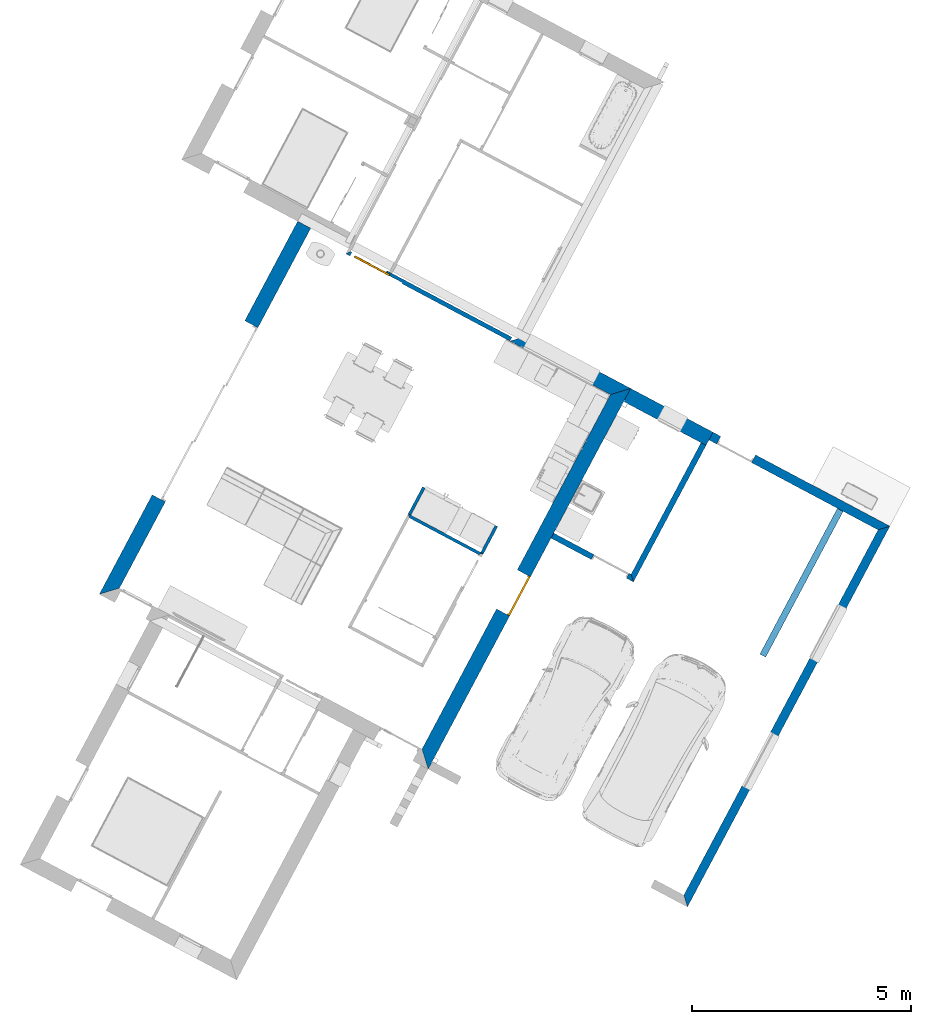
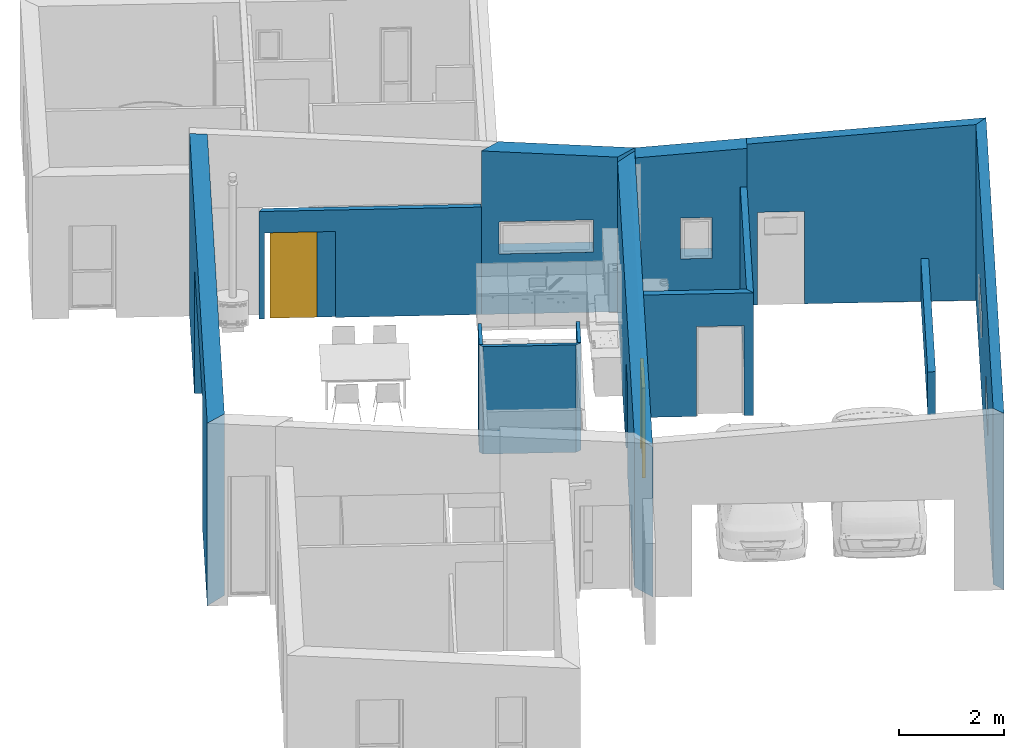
# One storey, part 4 of 27: 13 walls, 2 doors, 9 openings.
"""IFC2X3 building model written with IfcOpenShell, lengths in metres."""

from ifc_helpers import new_model, entity, si_unit, converted_unit, derived_unit, money_unit, direction, frame, origin_with_axes, origin_2d_with_axis, place, context, subcontext, project, spatial, polyline, rectangle, outline, extrude, clip, halfspace, bounded_halfspace, faceted_brep, source, transform, mapped, material, layer, layer_set, layer_usage, type_object, element, fill, save


model = new_model("IFC2X3")

# Units and contexts
model_context = context("Model", 3, precision=1e-05, world=origin_with_axes(), true_north=direction((0.0, 1.0)))
body_context = subcontext(model_context, "Body", "Model", "MODEL_VIEW")
ifc_project = project(units=[si_unit("LENGTHUNIT", "METRE"), si_unit("AREAUNIT", "SQUARE_METRE"), si_unit("VOLUMEUNIT", "CUBIC_METRE"), converted_unit("PLANEANGLEUNIT", "DEGREE", entity("IfcPlaneAngleMeasure", 0.0174532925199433), si_unit("PLANEANGLEUNIT", "RADIAN"), dimensions=[0, 0, 0, 0, 0, 0, 0]), money_unit("CHF"), converted_unit("TIMEUNIT", "Year", entity("IfcTimeMeasure", 31557600.0), si_unit("TIMEUNIT", "SECOND"), dimensions=[0, 0, 1, 0, 0, 0, 0]), si_unit("MASSUNIT", "GRAM", prefix="KILO"), si_unit("THERMODYNAMICTEMPERATUREUNIT", "DEGREE_CELSIUS"), si_unit("LUMINOUSINTENSITYUNIT", "LUMEN"), si_unit("ENERGYUNIT", "JOULE", prefix="MEGA"), derived_unit("THERMALCONDUCTANCEUNIT", [(si_unit("POWERUNIT", "WATT"), 1), (si_unit("LENGTHUNIT", "METRE"), -1), (si_unit("THERMODYNAMICTEMPERATUREUNIT", "KELVIN"), -1)]), derived_unit("SPECIFICHEATCAPACITYUNIT", [(si_unit("ENERGYUNIT", "JOULE"), 1), (si_unit("MASSUNIT", "GRAM", prefix="KILO"), -1), (si_unit("THERMODYNAMICTEMPERATUREUNIT", "KELVIN"), -1)]), derived_unit("MASSDENSITYUNIT", [(si_unit("MASSUNIT", "GRAM", prefix="KILO"), 1), (si_unit("VOLUMEUNIT", "CUBIC_METRE"), -1)])], contexts=[model_context])

# Site, building, storey
site_placement = place(None, frame((0.0, 0.0, 0.0), z_axis=(0.0, 0.0, 1.0), x_axis=(-0.4694715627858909, -0.8829475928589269, 0.0)))
site = spatial("IfcSite", under=ifc_project, at=site_placement, Name="Site", CompositionType="ELEMENT")
building_placement = place(site_placement, origin_with_axes())
building = spatial("IfcBuilding", under=site, at=building_placement, Name="Bâtiment", CompositionType="ELEMENT")
storey_placement = place(building_placement, origin_with_axes())
storey = spatial("IfcBuildingStorey", under=building, at=storey_placement, Name="RDC", CompositionType="ELEMENT", Elevation=0.0)

# Wall, opening
ifc_material_1 = material(Name="Maçonnerie 290464332")
ifc_layer_1 = layer(ifc_material_1, 0.2, ventilated="UNKNOWN")
ifc_material_2 = material(Name="Isolation 272048125")
ifc_layer_2 = layer(ifc_material_2, 0.14, ventilated="UNKNOWN")
ifc_layer_set_1 = layer_set([ifc_layer_1, ifc_layer_2], Name="MUR EXT 34 0024849982")
ifc_layer_usage_1 = layer_usage(ifc_layer_set_1, "AXIS2", "POSITIVE", 0.0)
wall_type_1 = type_object("IfcWallType", Name="MUR EXT 34 0024849982 340", PredefinedType="NOTDEFINED")
wall_1_placement = place(storey_placement, frame((133.6895710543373, -828.6945991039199, 0.0), z_axis=(0.0, 0.0, 1.0), x_axis=(0.0, -1.0, 0.0)))
wall_1 = element("IfcWallStandardCase", 1, at=wall_1_placement, inside=storey, type_object=wall_type_1, material=ifc_layer_usage_1, Name="Mur-391", context=body_context, shape_type="Clipping", body=[
    clip(extrude(outline(polyline([(0.0, 0.0), (2.600000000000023, 0.0), (2.940000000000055, 0.3400000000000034), (0.3400000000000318, 0.3400000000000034), (0.0, 0.0)])), origin_with_axes(), (0.0, 0.0, 1.0), 5.0), bounded_halfspace(frame((-0.2839427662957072, 0.0, 3.54928457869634), z_axis=(0.07974522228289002, 0.0, -0.9968152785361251), x_axis=(0.0, 1.0, 0.0)), True, origin_with_axes(), polyline([(0.0, -0.01), (9.600009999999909, -0.01), (9.600009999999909, 0.3500000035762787), (0.0, 0.3500000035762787), (0.0, -0.01)]))),
])
opening_1_placement = place(wall_1_placement, frame((1.699999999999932, 0.0, 1.4), z_axis=(0.0, 0.0, 1.0), x_axis=(1.0, 0.0, 0.0)))
element("IfcOpeningElement", 2, at=opening_1_placement, cuts=wall_1, Name="Fen-157", context=body_context, shape_type="SweptSolid", body=[
    extrude(rectangle(XDim=1.799999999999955, YDim=0.7499999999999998, at=origin_2d_with_axis()), frame((0.0, -0.3400000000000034, 0.375), z_axis=(0.0, -1.0, 0.0), x_axis=(1.0, 0.0, 0.0)), (0.0, 0.0, -1.0), 1.02),
])

ifc_layer_usage_2 = layer_usage(ifc_layer_set_1, "AXIS2", "NEGATIVE", 0.0)
wall_2_placement = place(storey_placement, frame((133.6895710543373, -828.6945991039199, 0.0), z_axis=(0.0, 0.0, 1.0), x_axis=(0.0, 1.0, 0.0)))
wall_2 = element("IfcWallStandardCase", 3, at=wall_2_placement, inside=storey, type_object=wall_type_1, material=ifc_layer_usage_2, Name="Mur-395", context=body_context, shape_type="Clipping", body=[
    clip(extrude(outline(polyline([(0.0, -0.3400000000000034), (2.129999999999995, -0.3400000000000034), (2.129999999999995, 0.0), (0.0, 0.0), (0.0, -0.3400000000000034)])), origin_with_axes(), (0.0, 0.0, 1.0), 5.0), bounded_halfspace(frame((-0.2839427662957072, 0.0, 3.54928457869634), z_axis=(0.07974522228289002, 0.0, -0.9968152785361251), x_axis=(0.0, 1.0, 0.0)), True, origin_with_axes(), polyline([(0.0, -0.3500000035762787), (7.000010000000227, -0.3500000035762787), (7.000010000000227, 0.01), (0.0, 0.01), (0.0, -0.3500000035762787)]))),
])
opening_2_placement = place(wall_2_placement, frame((1.165000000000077, 0.0, 1.2), z_axis=(0.0, 0.0, 1.0), x_axis=(1.0, 0.0, 0.0)))
element("IfcOpeningElement", 4, at=opening_2_placement, cuts=wall_2, Name="Fen-158", context=body_context, shape_type="SweptSolid", body=[
    extrude(rectangle(XDim=0.599999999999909, YDim=0.9500000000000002, at=origin_2d_with_axis()), frame((0.0, 0.3400000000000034, 0.4750000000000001), z_axis=(0.0, -1.0, 0.0), x_axis=(1.0, 0.0, 0.0)), (0.0, 0.0, 1.0), 1.02),
])

# Wall, opening, door
ifc_layer_usage_3 = layer_usage(ifc_layer_set_1, "AXIS2", "POSITIVE", 0.0)
wall_3_placement = place(storey_placement, frame((143.5295710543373, -828.6945991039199, 0.0), z_axis=(0.0, 0.0, 1.0), x_axis=(-1.0, 0.0, 0.0)))
solid = clip(clip(clip(clip(clip(clip(clip(clip(extrude(outline(polyline([(0.0, 0.0), (9.840000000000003, 0.0), (9.5, 0.3400000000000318), (0.3400000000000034, 0.3400000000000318), (0.0, 0.0)])), origin_with_axes(), (0.0, 0.0, 1.0), 5.0), halfspace(frame((0.0, 0.2788553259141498, 3.485691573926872), z_axis=(0.0, -0.07974522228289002, -0.9968152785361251), x_axis=(0.0, 0.9968152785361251, -0.07974522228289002)), True)), halfspace(frame((0.0, 0.2788553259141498, 3.485691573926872), z_axis=(0.0, -0.07974522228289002, -0.9968152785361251), x_axis=(0.0, 0.9968152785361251, -0.07974522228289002)), True)), halfspace(frame((0.0, -0.2775834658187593, 3.469793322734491), z_axis=(0.0, 0.07974522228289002, -0.9968152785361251), x_axis=(0.0, 0.9968152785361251, 0.07974522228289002)), True)), halfspace(frame((0.0, -0.2775834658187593, 3.469793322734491), z_axis=(0.0, 0.07974522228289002, -0.9968152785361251), x_axis=(0.0, 0.9968152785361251, 0.07974522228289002)), True)), halfspace(frame((0.0, -0.2775834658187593, 3.469793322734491), z_axis=(0.0, 0.07974522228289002, -0.9968152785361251), x_axis=(0.0, 0.9968152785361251, 0.07974522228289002)), True)), halfspace(frame((0.0, -0.2775834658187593, 3.469793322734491), z_axis=(0.0, 0.07974522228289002, -0.9968152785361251), x_axis=(0.0, 0.9968152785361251, 0.07974522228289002)), True)), halfspace(frame((0.0, -0.2775834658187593, 3.469793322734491), z_axis=(0.0, 0.07974522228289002, -0.9968152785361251), x_axis=(0.0, 0.9968152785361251, 0.07974522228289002)), True)), halfspace(frame((0.0, -0.2775834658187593, 3.469793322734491), z_axis=(0.0, 0.07974522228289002, -0.9968152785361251), x_axis=(0.0, 0.9968152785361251, 0.07974522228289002)), True))
wall_3 = element("IfcWallStandardCase", 5, at=wall_3_placement, inside=storey, type_object=wall_type_1, material=ifc_layer_usage_3, Name="Mur-391", context=body_context, shape_type="Clipping", body=[
    clip(solid, halfspace(frame((0.0, -0.2839427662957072, 3.54928457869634), z_axis=(0.0, 0.07974522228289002, -0.9968152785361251), x_axis=(0.0, 0.9968152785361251, 0.07974522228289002)), True)),
])
opening_3_placement = place(wall_3_placement, frame((4.464905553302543, 0.0, 0.0), z_axis=(0.0, 0.0, 1.0), x_axis=(1.0, 0.0, 0.0)))
opening_3 = element("IfcOpeningElement", 6, at=opening_3_placement, cuts=wall_3, Name="porte 76", context=body_context, shape_type="SweptSolid", body=[
    extrude(rectangle(XDim=1.009999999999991, YDim=2.09, at=origin_2d_with_axis()), frame((0.0, 0.3400000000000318, 1.045), z_axis=(0.0, -1.0, 0.0), x_axis=(-1.0, 0.0, 0.0)), (0.0, 0.0, 1.0), 1.02),
])
door_style_1 = type_object("IfcDoorStyle", Name="P_int simple à carreaux 10", ConstructionType="NOTDEFINED", OperationType="SINGLE_SWING_RIGHT", ParameterTakesPrecedence=False, Sizeable=False)
shared_shape = source(origin_with_axes(), body_context, "Body", "Brep", [
    faceted_brep([(-0.473, -0.044, 0.0), (-0.473, -0.044, 2.058), (-0.473, -0.07, 2.058), (-0.473, -0.07, 0.0), (-0.485, -0.044, 2.058), (-0.485, -0.044, 0.0), (-0.485, 0.0, 2.058), (-0.505, 0.0, 2.058), (-0.505, -0.07, 2.058), (-0.505, -0.07, 0.0), (-0.505, 0.0, 0.0), (-0.485, 0.0, 0.0)], [[[0, 1, 2, 3]], [[4, 1, 0, 5]], [[4, 6, 7, 8, 2, 1]], [[2, 8, 9, 3]], [[5, 0, 3, 9, 10, 11]], [[6, 4, 5, 11]], [[6, 11, 10, 7]], [[10, 9, 8, 7]]]),
    faceted_brep([(0.485, -0.044, 2.058), (0.473, -0.044, 2.058), (0.473, -0.07, 2.058), (0.505, -0.07, 2.058), (0.505, 0.0, 2.058), (0.485, 0.0, 2.058), (0.485, -0.044, 0.0), (0.473, -0.044, 0.0), (0.473, -0.07, 0.0), (0.505, -0.07, 0.0), (0.505, 0.0, 0.0), (0.485, 0.0, 0.0)], [[[0, 1, 2, 3, 4, 5]], [[1, 0, 6, 7]], [[1, 7, 8, 2]], [[3, 2, 8, 9]], [[4, 3, 9, 10]], [[11, 5, 4, 10]], [[0, 5, 11, 6]], [[6, 11, 10, 9, 8, 7]]]),
    faceted_brep([(-0.485, 0.0, 2.07), (-0.485, 0.0, 2.058), (-0.505, 0.0, 2.058), (-0.505, 0.0, 2.09), (0.505, 0.0, 2.09), (0.505, 0.0, 2.058), (0.485, 0.0, 2.058), (0.485, 0.0, 2.07), (-0.485, -0.044, 2.07), (-0.485, -0.044, 2.058), (-0.473, -0.044, 2.058), (-0.473, -0.07, 2.058), (-0.505, -0.07, 2.058), (-0.505, -0.07, 2.09), (0.505, -0.07, 2.09), (0.505, -0.07, 2.058), (0.485, -0.044, 2.058), (0.473, -0.07, 2.058), (0.473, -0.044, 2.058), (0.485, -0.044, 2.07)], [[[0, 1, 2, 3, 4, 5, 6, 7]], [[1, 0, 8, 9]], [[9, 10, 11, 12, 2, 1]], [[2, 12, 13, 3]], [[3, 13, 14, 4]], [[4, 14, 15, 5]], [[16, 6, 5, 15, 17, 18]], [[7, 6, 16, 19]], [[0, 7, 19, 8]], [[16, 18, 10, 9, 8, 19]], [[10, 18, 17, 11]], [[17, 15, 14, 13, 12, 11]]]),
    faceted_brep([(-0.09999999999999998, -0.044, 0.0), (-0.1, -0.04400000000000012, 2.07), (-0.485, -0.04400000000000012, 2.07), (-0.485, -0.044, 0.0), (-0.1, 0.0, 2.07), (-0.09999999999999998, 0.0, 0.0), (-0.485, 0.0, 2.07), (-0.485, 0.0, 0.0)], [[[0, 1, 2, 3]], [[4, 1, 0, 5]], [[1, 4, 6, 2]], [[3, 2, 6, 7]], [[5, 0, 3, 7]], [[4, 5, 7, 6]]]),
    faceted_brep([(0.1, 0.0, 2.07), (0.1, -0.04400000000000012, 2.07), (0.485, -0.04400000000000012, 2.07), (0.485, 0.0, 2.07), (0.09999999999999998, -0.044, 0.0), (0.09999999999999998, 0.0, 0.0), (0.485, -0.044, 0.0), (0.485, 0.0, 0.0)], [[[0, 1, 2, 3]], [[4, 1, 0, 5]], [[1, 4, 6, 2]], [[2, 6, 7, 3]], [[5, 0, 3, 7]], [[4, 5, 7, 6]]]),
    faceted_brep([(-0.1, 0.0, 1.87), (-0.1, -0.044, 1.87), (-0.1, -0.044, 2.07), (-0.1, 0.0, 2.07), (0.1, 0.0, 1.87), (0.1, -0.044, 1.87), (0.1, -0.044, 2.07), (0.1, 0.0, 2.07)], [[[0, 1, 2, 3]], [[4, 5, 1, 0]], [[1, 5, 6, 2]], [[3, 2, 6, 7]], [[0, 3, 7, 4]], [[7, 6, 5, 4]]]),
    faceted_brep([(-0.1, 0.0, 1.67), (-0.1, -0.044, 1.67), (-0.1, -0.044, 1.87), (-0.1, 0.0, 1.87), (0.1, 0.0, 1.67), (0.1, -0.044, 1.67), (0.1, -0.044, 1.87), (0.1, 0.0, 1.87)], [[[0, 1, 2, 3]], [[4, 5, 1, 0]], [[1, 5, 6, 2]], [[3, 2, 6, 7]], [[0, 3, 7, 4]], [[7, 6, 5, 4]]]),
    faceted_brep([(-0.1, 0.0, 1.47), (-0.1, -0.044, 1.47), (-0.1, -0.044, 1.67), (-0.1, 0.0, 1.67), (0.1, 0.0, 1.47), (0.1, -0.044, 1.47), (0.1, -0.044, 1.67), (0.1, 0.0, 1.67)], [[[0, 1, 2, 3]], [[4, 5, 1, 0]], [[1, 5, 6, 2]], [[3, 2, 6, 7]], [[0, 3, 7, 4]], [[7, 6, 5, 4]]]),
    faceted_brep([(-0.1, 0.0, 1.27), (-0.1, -0.044, 1.27), (-0.1, -0.044, 1.47), (-0.1, 0.0, 1.47), (0.1, 0.0, 1.27), (0.1, -0.044, 1.27), (0.1, -0.044, 1.47), (0.1, 0.0, 1.47)], [[[0, 1, 2, 3]], [[4, 5, 1, 0]], [[1, 5, 6, 2]], [[3, 2, 6, 7]], [[0, 3, 7, 4]], [[7, 6, 5, 4]]]),
    faceted_brep([(-0.1, 0.0, 1.07), (-0.1, -0.044, 1.07), (-0.1, -0.044, 1.27), (-0.1, 0.0, 1.27), (0.1, 0.0, 1.07), (0.1, -0.044, 1.07), (0.1, -0.044, 1.27), (0.1, 0.0, 1.27)], [[[0, 1, 2, 3]], [[4, 5, 1, 0]], [[1, 5, 6, 2]], [[3, 2, 6, 7]], [[0, 3, 7, 4]], [[7, 6, 5, 4]]]),
    faceted_brep([(-0.1, 0.0, 0.8700000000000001), (-0.1, -0.044, 0.8700000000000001), (-0.1, -0.044, 1.07), (-0.1, 0.0, 1.07), (0.1, 0.0, 0.8700000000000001), (0.1, -0.044, 0.8700000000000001), (0.1, -0.044, 1.07), (0.1, 0.0, 1.07)], [[[0, 1, 2, 3]], [[4, 5, 1, 0]], [[1, 5, 6, 2]], [[3, 2, 6, 7]], [[0, 3, 7, 4]], [[7, 6, 5, 4]]]),
    faceted_brep([(-0.1, 0.0, 0.6700000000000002), (-0.1, -0.044, 0.6700000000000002), (-0.1, -0.044, 0.8700000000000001), (-0.1, 0.0, 0.8700000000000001), (0.1, 0.0, 0.6700000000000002), (0.1, -0.044, 0.6700000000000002), (0.1, -0.044, 0.8700000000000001), (0.1, 0.0, 0.8700000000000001)], [[[0, 1, 2, 3]], [[4, 5, 1, 0]], [[1, 5, 6, 2]], [[3, 2, 6, 7]], [[0, 3, 7, 4]], [[7, 6, 5, 4]]]),
    faceted_brep([(-0.1, 0.0, 0.4700000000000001), (-0.1, -0.044, 0.4700000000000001), (-0.1, -0.044, 0.6700000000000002), (-0.1, 0.0, 0.6700000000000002), (0.1, 0.0, 0.4700000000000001), (0.1, -0.044, 0.4700000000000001), (0.1, -0.044, 0.6700000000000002), (0.1, 0.0, 0.6700000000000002)], [[[0, 1, 2, 3]], [[4, 5, 1, 0]], [[1, 5, 6, 2]], [[3, 2, 6, 7]], [[0, 3, 7, 4]], [[7, 6, 5, 4]]]),
    faceted_brep([(-0.1, 0.0, 0.2700000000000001), (-0.1, -0.044, 0.2700000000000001), (-0.1, -0.044, 0.4700000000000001), (-0.1, 0.0, 0.4700000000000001), (0.1, 0.0, 0.2700000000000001), (0.1, -0.044, 0.2700000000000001), (0.1, -0.044, 0.4700000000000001), (0.1, 0.0, 0.4700000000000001)], [[[0, 1, 2, 3]], [[4, 5, 1, 0]], [[1, 5, 6, 2]], [[3, 2, 6, 7]], [[0, 3, 7, 4]], [[7, 6, 5, 4]]]),
    faceted_brep([(-0.1, 0.0, 0.07000000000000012), (-0.1, -0.044, 0.07000000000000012), (-0.1, -0.044, 0.2700000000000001), (-0.1, 0.0, 0.2700000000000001), (0.1, 0.0, 0.07000000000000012), (0.1, -0.044, 0.07000000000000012), (0.1, -0.044, 0.2700000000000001), (0.1, 0.0, 0.2700000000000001)], [[[0, 1, 2, 3]], [[4, 5, 1, 0]], [[1, 5, 6, 2]], [[3, 2, 6, 7]], [[0, 3, 7, 4]], [[7, 6, 5, 4]]]),
    faceted_brep([(-0.1, -0.044, 0.0), (0.1, -0.044, 0.0), (0.1, -0.044, 0.07000000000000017), (-0.1, -0.044, 0.07000000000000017), (0.1, 0.0, 0.0), (-0.1, 0.0, 0.0), (0.1, 0.0, 0.07000000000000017), (-0.1, 0.0, 0.07000000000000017)], [[[0, 1, 2, 3]], [[4, 1, 0, 5]], [[1, 4, 6, 2]], [[3, 2, 6, 7]], [[5, 0, 3, 7]], [[4, 5, 7, 6]]]),
])
door_1_placement = place(opening_3_placement, frame((0.5049999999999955, 0.0, 0.0), z_axis=(0.0, 0.0, 1.0), x_axis=(-1.0, 0.0, 0.0)))
door_1 = element("IfcDoor", 7, at=door_1_placement, inside=storey, type_object=door_style_1, Name="porte 76", OverallHeight=2.09, OverallWidth=1.01, context=body_context, shape_type="MappedRepresentation", body=[
    mapped(shared_shape, transform((0.5049999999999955, 0.0, 0.0))),
])
fill(opening_3, door_1)

ifc_material_3 = material(Name="Isolation 269295175")
ifc_layer_3 = layer(ifc_material_3, 0.1, ventilated="UNKNOWN")
ifc_layer_set_2 = layer_set([ifc_layer_3], Name="CLOISON 10")
ifc_layer_usage_4 = layer_usage(ifc_layer_set_2, "AXIS2", "POSITIVE", 0.0)
wall_type_2 = type_object("IfcWallType", Name="CLOISON 10 100", PredefinedType="NOTDEFINED")
wall_4_placement = place(storey_placement, frame((134.0295710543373, -835.8045991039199, 0.0), z_axis=(0.0, 0.0, 1.0), x_axis=(0.0, 1.0, 0.0)))
wall_4 = element("IfcWallStandardCase", 8, at=wall_4_placement, inside=storey, type_object=wall_type_2, material=ifc_layer_usage_4, Name="Mur-394", context=body_context, shape_type="SweptSolid", body=[
    extrude(outline(polyline([(-0.07000000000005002, 0.0), (4.169999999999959, 0.0), (4.169999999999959, 0.09999999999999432), (0.0, 0.09999999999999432), (-0.07000000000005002, 0.0)])), origin_with_axes(), (0.0, 0.0, 1.0), 2.5),
])
opening_4_placement = place(wall_4_placement, frame((0.4869279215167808, 0.0, 0.0), z_axis=(0.0, 0.0, 1.0), x_axis=(1.0, 0.0, 0.0)))
opening_4 = element("IfcOpeningElement", 9, at=opening_4_placement, cuts=wall_4, Name="porte 76", context=body_context, shape_type="SweptSolid", body=[
    extrude(rectangle(XDim=0.900000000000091, YDim=2.0, at=origin_2d_with_axis()), frame((0.0, 0.03000000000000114, 1.0), z_axis=(0.0, 1.0, 0.0), x_axis=(1.0, 0.0, 0.0)), (0.0, 0.0, 1.0), 0.17),
    extrude(rectangle(XDim=0.45, YDim=2.0, at=origin_2d_with_axis()), frame((0.6750000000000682, -0.02000000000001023, 1.0), z_axis=(0.0, -1.0, 0.0), x_axis=(1.0, 0.0, 0.0)), (0.0, 0.0, -1.0), 0.045),
    extrude(rectangle(XDim=0.900000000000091, YDim=2.0, at=origin_2d_with_axis()), frame((0.0, 0.03000000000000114, 1.0), z_axis=(0.0, -1.0, 0.0), x_axis=(1.0, 0.0, 0.0)), (0.0, 0.0, 1.0), 0.13),
])
door_style_2 = type_object("IfcDoorStyle", Name="P_coul dans mur 12", ConstructionType="NOTDEFINED", OperationType="SLIDING_TO_LEFT", ParameterTakesPrecedence=False, Sizeable=False)
door_2_placement = place(opening_4_placement, frame((0.4500000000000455, 0.0, 0.0), z_axis=(0.0, 0.0, 1.0), x_axis=(-1.0, 0.0, 0.0)))
door_2 = element("IfcDoor", 10, at=door_2_placement, inside=storey, type_object=door_style_2, Name="porte 76", OverallHeight=2.0, OverallWidth=0.9, context=body_context, shape_type="Brep", body=[
    faceted_brep([(-0.09999999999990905, -0.01999999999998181, 0.0), (0.8000000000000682, -0.01999999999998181, 0.0), (0.8000000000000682, -0.06000000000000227, 0.0), (-0.09999999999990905, -0.06000000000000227, 0.0), (-0.09999999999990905, -0.01999999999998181, 2.0), (0.8000000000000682, -0.01999999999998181, 2.0), (0.8000000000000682, -0.06000000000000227, 2.0), (-0.09999999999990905, -0.06000000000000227, 2.0)], [[[0, 1, 2, 3]], [[0, 4, 5, 1]], [[1, 5, 6, 2]], [[3, 2, 6, 7]], [[4, 0, 3, 7]], [[5, 4, 7, 6]]]),
])
fill(opening_4, door_2)

# Walls
ifc_layer_4 = layer(ifc_material_3, 0.07, ventilated="UNKNOWN")
ifc_layer_set_3 = layer_set([ifc_layer_4], Name="CLOISON 7 0024849982")
ifc_layer_usage_5 = layer_usage(ifc_layer_set_3, "AXIS2", "NEGATIVE", 0.0)
wall_type_3 = type_object("IfcWallType", Name="CLOISON 7 0024849982 70", PredefinedType="NOTDEFINED")
wall_5_placement = place(storey_placement, frame((138.5995710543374, -831.8345991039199, 0.0), z_axis=(0.0, 0.0, 1.0), x_axis=(0.0, 1.0, 0.0)))
element("IfcWallStandardCase", 11, at=wall_5_placement, inside=storey, type_object=wall_type_3, material=ifc_layer_usage_5, Name="Mur-396", context=body_context, shape_type="SweptSolid", body=[
    extrude(outline(polyline([(0.07000000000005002, -0.06999999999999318), (1.845000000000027, -0.06999999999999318), (1.94500000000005, 0.0), (0.0, 0.0), (0.07000000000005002, -0.06999999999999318)])), origin_with_axes(), (0.0, 0.0, 1.0), 2.5),
])
ifc_layer_usage_6 = layer_usage(ifc_layer_set_3, "AXIS2", "NEGATIVE", 0.0)
wall_6_placement = place(storey_placement, frame((138.5995710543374, -829.9595991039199, 0.0), z_axis=(0.0, 0.0, 1.0), x_axis=(-1.0, 0.0, 0.0)))
element("IfcWallStandardCase", 12, at=wall_6_placement, inside=storey, type_object=wall_type_3, material=ifc_layer_usage_6, Name="Mur-397", context=body_context, shape_type="SweptSolid", body=[
    extrude(outline(polyline([(0.0, -0.07000000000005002), (0.6999999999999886, -0.07000000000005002), (0.6999999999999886, 0.0), (0.0, 0.0), (0.0, -0.07000000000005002)])), origin_with_axes(), (0.0, 0.0, 1.0), 2.5),
])
ifc_layer_usage_7 = layer_usage(ifc_layer_set_3, "AXIS2", "NEGATIVE", 0.0)
wall_7_placement = place(storey_placement, frame((138.5995710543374, -831.8345991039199, 0.0), z_axis=(0.0, 0.0, 1.0), x_axis=(-1.0, 0.0, 0.0)))
element("IfcWallStandardCase", 13, at=wall_7_placement, inside=storey, type_object=wall_type_3, material=ifc_layer_usage_7, Name="Mur-396", context=body_context, shape_type="SweptSolid", body=[
    extrude(outline(polyline([(0.0, -0.07000000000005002), (0.6999999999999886, -0.07000000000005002), (0.6999999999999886, 0.0), (0.0, 0.0), (0.0, -0.07000000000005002)])), origin_with_axes(), (0.0, 0.0, 1.0), 2.5),
])
ifc_layer_5 = layer(ifc_material_2, 0.01, ventilated="UNKNOWN")
ifc_material_4 = material(Name="Bloc béton 288373292")
ifc_layer_6 = layer(ifc_material_4, 0.11, ventilated="UNKNOWN")
ifc_layer_7 = layer(ifc_material_2, 0.01, ventilated="UNKNOWN")
ifc_layer_set_4 = layer_set([ifc_layer_5, ifc_layer_6, ifc_layer_7], Name="CLOISON PLACOSTYL 13 0024849982")
ifc_layer_usage_8 = layer_usage(ifc_layer_set_4, "AXIS2", "NEGATIVE", 0.0)
wall_type_4 = type_object("IfcWallType", Name="CLOISON PLACOSTYL 13 0024849982 130", PredefinedType="NOTDEFINED")
wall_8_placement = place(storey_placement, frame((137.4295710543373, -826.6945991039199, 0.0), z_axis=(0.0, 0.0, 1.0), x_axis=(-1.0, 0.0, 0.0)))
element("IfcWallStandardCase", 14, at=wall_8_placement, inside=storey, type_object=wall_type_4, material=ifc_layer_usage_8, Name="Mur-398", context=body_context, shape_type="SweptSolid", body=[
    extrude(outline(polyline([(-0.1299999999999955, -0.1299999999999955), (3.400000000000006, -0.1299999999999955), (3.400000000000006, 0.0), (0.0, 0.0), (-0.1299999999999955, -0.1299999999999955)])), origin_with_axes(), (0.0, 0.0, 1.0), 2.85),
])

# Wall, opening
ifc_layer_usage_9 = layer_usage(ifc_layer_set_4, "AXIS2", "NEGATIVE", 0.0)
wall_9_placement = place(storey_placement, frame((137.4295710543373, -828.6945991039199, 0.0), z_axis=(0.0, 0.0, 1.0), x_axis=(0.0, 1.0, 0.0)))
wall_9 = element("IfcWallStandardCase", 15, at=wall_9_placement, inside=storey, type_object=wall_type_4, material=ifc_layer_usage_9, Name="Mur-397", context=body_context, shape_type="SweptSolid", body=[
    extrude(outline(polyline([(0.0, -0.1299999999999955), (2.129999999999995, -0.1299999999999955), (2.0, 0.0), (0.0, 0.0), (0.0, -0.1299999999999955)])), origin_with_axes(), (0.0, 0.0, 1.0), 2.85),
])
opening_5_placement = place(wall_9_placement, frame((1.495000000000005, 0.0, 0.0), z_axis=(0.0, 0.0, 1.0), x_axis=(1.0, 0.0, 0.0)))
element("IfcOpeningElement", 16, at=opening_5_placement, cuts=wall_9, Name="porte 77", context=body_context, shape_type="SweptSolid", body=[
    extrude(rectangle(XDim=0.9100000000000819, YDim=2.09, at=origin_2d_with_axis()), frame((0.0, -0.1299999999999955, 1.045), z_axis=(0.0, 1.0, 0.0), x_axis=(1.0, 0.0, 0.0)), (0.0, 0.0, 1.0), 0.39),
])

ifc_layer_8 = layer(ifc_material_1, 0.2, ventilated="UNKNOWN")
ifc_layer_set_5 = layer_set([ifc_layer_8], Name="MUR EXT 20 0024849982")
ifc_layer_usage_10 = layer_usage(ifc_layer_set_5, "AXIS2", "NEGATIVE", 0.0)
wall_type_5 = type_object("IfcWallType", Name="MUR EXT 20 0024849982 200", PredefinedType="NOTDEFINED")
wall_10_placement = place(storey_placement, frame((133.6895710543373, -826.5645991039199, 0.0), z_axis=(0.0, 0.0, 1.0), x_axis=(0.0, 1.0, 0.0)))
wall_10 = element("IfcWallStandardCase", 17, at=wall_10_placement, inside=storey, type_object=wall_type_5, material=ifc_layer_usage_10, Name="Mur-395", context=body_context, shape_type="Clipping", body=[
    clip(extrude(outline(polyline([(0.0, -0.1999999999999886), (4.370000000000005, -0.1999999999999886), (4.57000000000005, 0.0), (0.0, 0.0), (0.0, -0.1999999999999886)])), origin_with_axes(), (0.0, 0.0, 1.0), 5.0), halfspace(frame((-0.2974880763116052, 0.0, 3.718600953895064), z_axis=(0.07974522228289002, 0.0, -0.9968152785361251), x_axis=(0.0, 1.0, 0.0)), True)),
])
opening_6_placement = place(wall_10_placement, frame((0.6499999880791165, 0.0, 0.0), z_axis=(0.0, 0.0, 1.0), x_axis=(1.0, 0.0, 0.0)))
element("IfcOpeningElement", 18, at=opening_6_placement, cuts=wall_10, Name="porte 75", context=body_context, shape_type="SweptSolid", body=[
    extrude(rectangle(XDim=0.8999999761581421, YDim=2.15, at=origin_2d_with_axis()), frame((0.0, 0.1999999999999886, 1.075), z_axis=(0.0, -1.0, 0.0), x_axis=(-1.0, 0.0, 0.0)), (0.0, 0.0, 1.0), 0.6000000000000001),
])

# Wall, openings
ifc_layer_usage_11 = layer_usage(ifc_layer_set_5, "AXIS2", "POSITIVE", 0.0)
wall_11_placement = place(storey_placement, frame((143.5295710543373, -821.9945991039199, 0.0), z_axis=(0.0, 0.0, 1.0), x_axis=(-1.0, 0.0, 0.0)))
wall_11 = element("IfcWallStandardCase", 19, at=wall_11_placement, inside=storey, type_object=wall_type_5, material=ifc_layer_usage_11, Name="Mur-394", context=body_context, shape_type="Clipping", body=[
    clip(extrude(outline(polyline([(0.0, 0.0), (9.840000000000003, 0.0), (9.640000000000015, 0.2000000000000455), (0.1999999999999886, 0.2000000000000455), (0.0, 0.0)])), origin_with_axes(), (0.0, 0.0, 1.0), 5.0), halfspace(frame((0.0, 0.326550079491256, 4.0818759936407), z_axis=(0.0, -0.07974522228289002, -0.9968152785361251), x_axis=(0.0, 0.9968152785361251, -0.07974522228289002)), True)),
])
opening_7_placement = place(wall_11_placement, frame((7.019999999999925, 0.0, 1.4), z_axis=(0.0, 0.0, 1.0), x_axis=(1.0, 0.0, 0.0)))
element("IfcOpeningElement", 20, at=opening_7_placement, cuts=wall_11, Name="Fen-157", context=body_context, shape_type="SweptSolid", body=[
    extrude(rectangle(XDim=1.399999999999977, YDim=0.5999999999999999, at=origin_2d_with_axis()), frame((0.0, -0.2000000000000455, 0.2999999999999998), z_axis=(0.0, 1.0, 0.0), x_axis=(-1.0, 0.0, 0.0)), (0.0, 0.0, 1.0), 0.6000000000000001),
])
opening_8_placement = place(wall_11_placement, frame((3.719999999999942, 0.0, 1.4), z_axis=(0.0, 0.0, 1.0), x_axis=(1.0, 0.0, 0.0)))
element("IfcOpeningElement", 21, at=opening_8_placement, cuts=wall_11, Name="Fen-157", context=body_context, shape_type="SweptSolid", body=[
    extrude(rectangle(XDim=1.399999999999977, YDim=0.5999999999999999, at=origin_2d_with_axis()), frame((0.0, -0.2000000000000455, 0.2999999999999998), z_axis=(0.0, 1.0, 0.0), x_axis=(1.0, 0.0, 0.0)), (0.0, 0.0, 1.0), 0.6000000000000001),
])

# Wall
ifc_layer_9 = layer(ifc_material_3, 0.15, ventilated="UNKNOWN")
ifc_layer_set_6 = layer_set([ifc_layer_9], Name="CLOISON 15")
ifc_layer_usage_12 = layer_usage(ifc_layer_set_6, "AXIS2", "POSITIVE", 0.0)
wall_type_6 = type_object("IfcWallType", Name="CLOISON 15 150", PredefinedType="NOTDEFINED")
wall_12_placement = place(storey_placement, frame((137.6588018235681, -823.0945991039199, 0.0), z_axis=(0.0, 0.0, 1.0), x_axis=(-1.0, 0.0, 0.0)))
element("IfcWallStandardCase", 22, at=wall_12_placement, inside=storey, type_object=wall_type_6, material=ifc_layer_usage_12, Name="Mur-397", context=body_context, shape_type="SweptSolid", body=[
    extrude(outline(polyline([(0.0, 0.0), (3.769230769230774, 0.0), (3.769230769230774, 0.1499999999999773), (0.0, 0.1499999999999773), (0.0, 0.0)])), origin_with_axes(), (0.0, 0.0, 1.0), 1.0),
])

# Wall, opening
ifc_layer_10 = layer(ifc_material_1, 0.2, ventilated="UNKNOWN")
ifc_layer_11 = layer(ifc_material_2, 0.14, ventilated="UNKNOWN")
ifc_layer_set_7 = layer_set([ifc_layer_10, ifc_layer_11], Name="MUR EXT 34")
ifc_layer_usage_13 = layer_usage(ifc_layer_set_7, "AXIS2", "POSITIVE", 0.0)
wall_type_7 = type_object("IfcWallType", Name="MUR EXT 34 340", PredefinedType="NOTDEFINED")
wall_13_placement = place(storey_placement, frame((133.8895710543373, -837.1945991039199, 0.0), z_axis=(0.0, 0.0, 1.0), x_axis=(1.0, 0.0, 0.0)))
wall_13 = element("IfcWallStandardCase", 23, at=wall_13_placement, inside=storey, type_object=wall_type_7, material=ifc_layer_usage_13, Name="Mur-392", context=body_context, shape_type="Clipping", body=[
    clip(extrude(outline(polyline([(0.0, 0.0), (9.640000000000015, 0.0), (9.300000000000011, 0.3400000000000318), (0.0, 0.3400000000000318), (0.0, 0.0)])), origin_with_axes(), (0.0, 0.0, 1.0), 5.0), halfspace(frame((0.0, 0.3379968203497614, 4.224960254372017), z_axis=(0.0, -0.07974522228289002, -0.9968152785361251), x_axis=(0.0, 0.9968152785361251, -0.07974522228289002)), True)),
])
opening_9_placement = place(wall_13_placement, frame((4.819999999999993, 0.0, 0.0), z_axis=(0.0, 0.0, 1.0), x_axis=(1.0, 0.0, 0.0)))
element("IfcOpeningElement", 24, at=opening_9_placement, cuts=wall_13, Name="porte 77", context=body_context, shape_type="SweptSolid", body=[
    extrude(rectangle(XDim=4.5, YDim=3.0, at=origin_2d_with_axis()), frame((0.0, -0.3400000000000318, 1.5), z_axis=(0.0, -1.0, 0.0), x_axis=(-1.0, 0.0, 0.0)), (0.0, 0.0, -1.0), 1.02),
])

save(model, "model.ifc")
